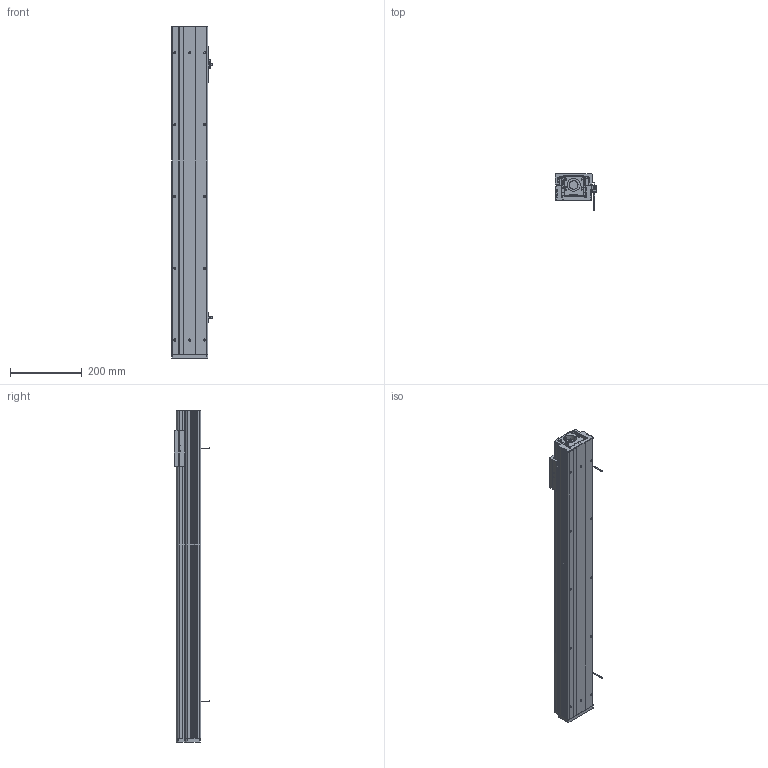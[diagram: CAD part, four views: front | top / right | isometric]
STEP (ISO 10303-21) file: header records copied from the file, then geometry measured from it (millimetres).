
FILE_DESCRIPTION (( 'STEP AP203' ), '1' );
FILE_NAME ('CTHM10-S700-O-BC.STEP', '2019-12-18T01:02:00', ( '微软用户' ), ( '微软中国' ), 'SwSTEP 2.0', 'SolidWorks 2017', '' );
FILE_SCHEMA (( 'CONFIG_CONTROL_DESIGN' ));
Length unit declared in the file: millimetre
Products named in the file (11): 遣喳蝶15x12x8; EE-SX672-BR; CTHM10-S700-O-BC; CTHM10菁釱(200); CTHM10固定侧自制轴承座; CTHM10痄雄釱(党蜊); CTHM10裔啣(100); CTHM10盓傅耜; CTHM10傷裔(祥結裔啣); CTHM10綴傷裔; 覜茼え
Assembly tree (14 placements, depth 2):
  CTHM10-S700-O-BC
    CTHM10菁釱(200)
    CTHM10痄雄釱(党蜊)
    CTHM10盓傅耜
    CTHM10固定侧自制轴承座
    CTHM10裔啣(100)
    CTHM10傷裔(祥結裔啣)
    CTHM10綴傷裔
    覜茼え
    遣喳蝶15x12x8  x4
    EE-SX672-BR  x2
Bounding box: 114.7 x 100.2 x 925 mm (x, y, z)
Volume: 2405480.9 mm3; surface area: 805713.8 mm2
Topology: 14 solids, 14 shells, 950 faces, 2692 edges, 1756 vertices
Faces by surface type: cylinder 509, plane 397, cone 44
Entity records: 32179 total; most frequent: CARTESIAN_POINT 7763, DIRECTION 4898, ORIENTED_EDGE 4856, EDGE_CURVE 2428, AXIS2_PLACEMENT_3D 1793, VERTEX_POINT 1604, LINE 1312, VECTOR 1312
